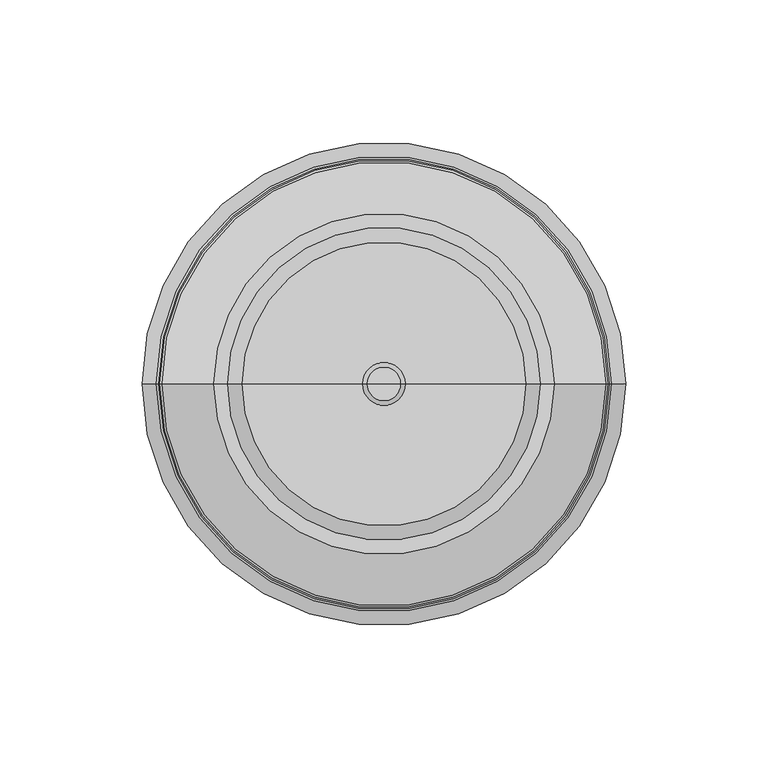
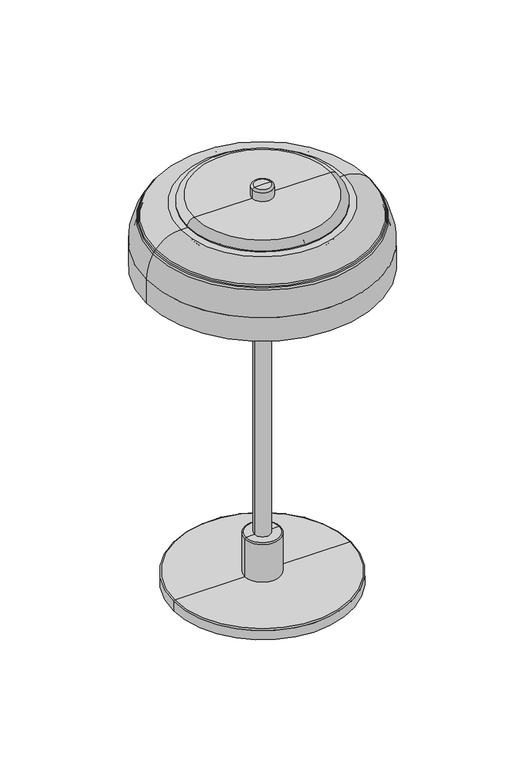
"""IFC4 building model written with IfcOpenShell, lengths in millimetres: light fixture geometry, Nuura - Blossi - Table Small : Nuura - Blossi - Table Small."""

from ifc_helpers import new_model, si_unit, point, frame, frame_2d, origin, origin_with_axes, place, context, project, spatial, polyline, circle_curve, ellipse_curve, trimmed, segment, composite_curve, outline, extrude, source, transform, mapped, element, save
from ifc_brep_helpers import plane_surface, cylinder_surface, revolved_surface, advanced_brep


def light_fixture_d68c31f9(model_context):
    return source(origin(), model_context, "Body", "SolidModel", [
        advanced_brep(
        [(-60.0, 0.0, 291.2), (60.0, 0.0, 291.2), (0.0, 0.0, 291.2), (-74.2433676, 0.0, 285.3165279), (74.2433676, 0.0, 285.3165279), (-74.9468549, 0.0, 284.5804612), (74.9468549, 0.0, 284.5804612), (-76.2305487, 0.0, 282.9610633), (76.2305487, 0.0, 282.9610633), (-76.7866873, 0.0, 282.108081), (76.7866873, 0.0, 282.108081), (-82.0, 0.0, 264.5667504), (82.0, 0.0, 264.5667504), (-82.0, 0.0, 246.5667504), (82.0, 0.0, 246.5667504), (-85.0, 0.0, 246.5667504), (85.0, 0.0, 246.5667504), (-85.0, 0.0, 264.5667504), (85.0, 0.0, 264.5667504), (-80.1645125, 0.0, 282.4944598), (80.1645125, 0.0, 282.4944598), (-79.4063661, 0.0, 283.7976404), (79.4063661, 0.0, 283.7976404), (-78.9160333, 0.0, 284.5141966), (78.9160333, 0.0, 284.5141966), (-78.1680574, 0.0, 285.4519227), (78.1680574, 0.0, 285.4519227), (-60.0, 0.0, 294.2), (60.0, 0.0, 294.2), (0.0, 0.0, 294.2)],
        [
            (0, 1, circle_curve(frame((0.0, 0.0, 291.2), z_axis=(0.0, 0.0, -1.0), x_axis=(1.0, 0.0, 0.0)), 60.0)),
            (1, 2),
            (2, 0),
            (1, 0, circle_curve(frame((0.0, 0.0, 291.2), z_axis=(0.0, 0.0, -1.0), x_axis=(1.0, 0.0, 0.0)), 60.0)),
            (3, 4, circle_curve(frame((0.0, 0.0, 285.3165279), z_axis=(0.0, 0.0, -1.0), x_axis=(1.0, 0.0, 0.0)), 74.2433676)),
            (4, 1, circle_curve(frame((60.0, 0.0, 271.0172948), z_axis=(0.0, -1.0, 0.0), x_axis=(1.0, 0.0, 0.0)), 20.1827052)),
            (0, 3, circle_curve(frame((-60.0, 0.0, 271.0172948), z_axis=(0.0, -1.0, 0.0), x_axis=(-1.0, 0.0, 0.0)), 20.1827052)),
            (4, 3, circle_curve(frame((0.0, 0.0, 285.3165279), z_axis=(0.0, 0.0, -1.0), x_axis=(1.0, 0.0, 0.0)), 74.2433676)),
            (5, 6, circle_curve(frame((0.0, 0.0, 284.5804612), z_axis=(0.0, 0.0, -1.0), x_axis=(1.0, 0.0, 0.0)), 74.9468549)),
            (6, 4),
            (3, 5),
            (6, 5, circle_curve(frame((0.0, 0.0, 284.5804612), z_axis=(0.0, 0.0, -1.0), x_axis=(1.0, 0.0, 0.0)), 74.9468549)),
            (7, 8, circle_curve(frame((0.0, 0.0, 282.9610633), z_axis=(0.0, 0.0, -1.0), x_axis=(1.0, 0.0, 0.0)), 76.2305487)),
            (8, 6, circle_curve(frame((66.8599569, 0.0, 276.8515019), z_axis=(0.0, -1.0, 0.0), x_axis=(1.0, 0.0, 0.0)), 11.1863636)),
            (5, 7, circle_curve(frame((-66.8599569, 0.0, 276.8515019), z_axis=(0.0, -1.0, 0.0), x_axis=(-1.0, 0.0, 0.0)), 11.1863636)),
            (8, 7, circle_curve(frame((0.0, 0.0, 282.9610633), z_axis=(0.0, 0.0, -1.0), x_axis=(1.0, 0.0, 0.0)), 76.2305487)),
            (9, 10, circle_curve(frame((0.0, 0.0, 282.108081), z_axis=(0.0, 0.0, -1.0), x_axis=(1.0, 0.0, 0.0)), 76.7866873)),
            (10, 8),
            (7, 9),
            (10, 9, circle_curve(frame((0.0, 0.0, 282.108081), z_axis=(0.0, 0.0, -1.0), x_axis=(1.0, 0.0, 0.0)), 76.7866873)),
            (11, 12, circle_curve(frame((0.0, 0.0, 264.5667504), z_axis=(0.0, 0.0, -1.0), x_axis=(1.0, 0.0, 0.0)), 82.0)),
            (12, 10, circle_curve(frame((49.8825225, 0.0, 264.5667504), z_axis=(0.0, -1.0, 0.0), x_axis=(1.0, 0.0, 0.0)), 32.1174775)),
            (9, 11, circle_curve(frame((-49.8825225, 0.0, 264.5667504), z_axis=(0.0, -1.0, 0.0), x_axis=(-1.0, 0.0, 0.0)), 32.1174775)),
            (12, 11, circle_curve(frame((0.0, 0.0, 264.5667504), z_axis=(0.0, 0.0, -1.0), x_axis=(1.0, 0.0, 0.0)), 82.0)),
            (13, 14, circle_curve(frame((0.0, 0.0, 246.5667504), z_axis=(0.0, 0.0, -1.0), x_axis=(1.0, 0.0, 0.0)), 82.0)),
            (14, 12),
            (11, 13),
            (14, 13, circle_curve(frame((0.0, 0.0, 246.5667504), z_axis=(0.0, 0.0, -1.0), x_axis=(1.0, 0.0, 0.0)), 82.0)),
            (15, 16, circle_curve(frame((0.0, 0.0, 246.5667504), z_axis=(0.0, 0.0, -1.0), x_axis=(1.0, 0.0, 0.0)), 85.0)),
            (16, 14),
            (13, 15),
            (16, 15, circle_curve(frame((0.0, 0.0, 246.5667504), z_axis=(0.0, 0.0, -1.0), x_axis=(1.0, 0.0, 0.0)), 85.0)),
            (17, 18, circle_curve(frame((0.0, 0.0, 264.5667504), z_axis=(0.0, 0.0, -1.0), x_axis=(1.0, 0.0, 0.0)), 85.0)),
            (18, 16),
            (15, 17),
            (18, 17, circle_curve(frame((0.0, 0.0, 264.5667504), z_axis=(0.0, 0.0, -1.0), x_axis=(1.0, 0.0, 0.0)), 85.0)),
            (19, 20, circle_curve(frame((0.0, 0.0, 282.4944598), z_axis=(0.0, 0.0, -1.0), x_axis=(1.0, 0.0, 0.0)), 80.1645125)),
            (20, 18, circle_curve(frame((49.3485064, 0.0, 264.5667504), z_axis=(0.0, 1.0, 0.0), x_axis=(1.0, 0.0, 0.0)), 35.6514936)),
            (17, 19, circle_curve(frame((-49.3485064, 0.0, 264.5667504), z_axis=(0.0, 1.0, 0.0), x_axis=(-1.0, 0.0, 0.0)), 35.6514936)),
            (20, 19, circle_curve(frame((0.0, 0.0, 282.4944598), z_axis=(0.0, 0.0, -1.0), x_axis=(1.0, 0.0, 0.0)), 80.1645125)),
            (21, 22, circle_curve(frame((0.0, 0.0, 283.7976404), z_axis=(0.0, 0.0, -1.0), x_axis=(1.0, 0.0, 0.0)), 79.4063661)),
            (22, 20),
            (19, 21),
            (22, 21, circle_curve(frame((0.0, 0.0, 283.7976404), z_axis=(0.0, 0.0, -1.0), x_axis=(1.0, 0.0, 0.0)), 79.4063661)),
            (23, 24, circle_curve(frame((0.0, 0.0, 284.5141966), z_axis=(0.0, 0.0, -1.0), x_axis=(1.0, 0.0, 0.0)), 78.9160333)),
            (24, 22, circle_curve(frame((74.2754735, 0.0, 280.8126608), z_axis=(0.0, 1.0, 0.0), x_axis=(1.0, 0.0, 0.0)), 5.9360056)),
            (21, 23, circle_curve(frame((-74.2754735, 0.0, 280.8126608), z_axis=(0.0, 1.0, 0.0), x_axis=(-1.0, 0.0, 0.0)), 5.9360056)),
            (24, 23, circle_curve(frame((0.0, 0.0, 284.5141966), z_axis=(0.0, 0.0, -1.0), x_axis=(1.0, 0.0, 0.0)), 78.9160333)),
            (25, 26, circle_curve(frame((0.0, 0.0, 285.4519227), z_axis=(0.0, 0.0, -1.0), x_axis=(1.0, 0.0, 0.0)), 78.1680574)),
            (26, 24),
            (23, 25),
            (26, 25, circle_curve(frame((0.0, 0.0, 285.4519227), z_axis=(0.0, 0.0, -1.0), x_axis=(1.0, 0.0, 0.0)), 78.1680574)),
            (27, 28, circle_curve(frame((0.0, 0.0, 294.2), z_axis=(0.0, 0.0, -1.0), x_axis=(1.0, 0.0, 0.0)), 60.0)),
            (28, 26, circle_curve(frame((60.0, 0.0, 270.9601981), z_axis=(0.0, 1.0, 0.0), x_axis=(1.0, 0.0, 0.0)), 23.2398019)),
            (25, 27, circle_curve(frame((-60.0, 0.0, 270.9601981), z_axis=(0.0, 1.0, 0.0), x_axis=(-1.0, 0.0, 0.0)), 23.2398019)),
            (28, 27, circle_curve(frame((0.0, 0.0, 294.2), z_axis=(0.0, 0.0, -1.0), x_axis=(1.0, 0.0, 0.0)), 60.0)),
            (29, 28),
            (27, 29),
        ],
        [
            plane_surface(frame((0.0, 0.0, 291.2), z_axis=(0.0, 0.0, -1.0), x_axis=(1.0, 0.0, 0.0))),
            revolved_surface(trimmed(ellipse_curve(frame((60.0, 0.0, 271.0172948), z_axis=(0.0, 1.0, 0.0), x_axis=(1.0, 0.0, 0.0)), 20.1827052, 20.1827052), [point((60.0, 0.0, 291.2))], [point((74.2433676, 0.0, 285.3165279))], True, "CARTESIAN"), (0.0, 0.0, 340.5834276), (0.0, 0.0, 1.0)),
            revolved_surface(polyline([(74.2433676, 0.0, 285.3165279), (74.9468549, 0.0, 284.5804612)]), (0.0, 0.0, 340.5834276), (0.0, 0.0, 1.0)),
            revolved_surface(trimmed(ellipse_curve(frame((66.8599569, 0.0, 276.8515019), z_axis=(0.0, 1.0, 0.0), x_axis=(1.0, 0.0, 0.0)), 11.1863636, 11.1863636), [point((74.9468549, 0.0, 284.5804612))], [point((76.2305487, 0.0, 282.9610633))], True, "CARTESIAN"), (0.0, 0.0, 340.5834276), (0.0, 0.0, 1.0)),
            revolved_surface(polyline([(76.2305487, 0.0, 282.9610633), (76.7866873, 0.0, 282.108081)]), (0.0, 0.0, 340.5834276), (0.0, 0.0, 1.0)),
            revolved_surface(trimmed(ellipse_curve(frame((49.8825225, 0.0, 264.5667504), z_axis=(0.0, 1.0, 0.0), x_axis=(1.0, 0.0, 0.0)), 32.1174775, 32.1174775), [point((76.7866873, 0.0, 282.108081))], [point((82.0, 0.0, 264.5667504))], True, "CARTESIAN"), (0.0, 0.0, 340.5834276), (0.0, 0.0, 1.0)),
            revolved_surface(polyline([(82.0, 0.0, 264.5667504), (82.0, 0.0, 246.5667504)]), (0.0, 0.0, 340.5834276), (0.0, 0.0, 1.0)),
            plane_surface(frame((0.0, 0.0, 246.5667504), z_axis=(0.0, 0.0, -1.0), x_axis=(1.0, 0.0, 0.0))),
            cylinder_surface(frame((0.0, 0.0, 340.5834276), z_axis=(0.0, 0.0, 1.0), x_axis=(1.0, 0.0, 0.0)), 85.0),
            revolved_surface(trimmed(ellipse_curve(frame((49.3485064, 0.0, 264.5667504), z_axis=(0.0, -1.0, 0.0), x_axis=(1.0, 0.0, 0.0)), 35.6514936, 35.6514936), [point((85.0, 0.0, 264.5667504))], [point((80.1645125, 0.0, 282.4944598))], True, "CARTESIAN"), (0.0, 0.0, 340.5834276), (0.0, 0.0, 1.0)),
            revolved_surface(polyline([(80.1645125, 0.0, 282.4944598), (79.4063661, 0.0, 283.7976404)]), (0.0, 0.0, 340.5834276), (0.0, 0.0, 1.0)),
            revolved_surface(trimmed(ellipse_curve(frame((74.2754735, 0.0, 280.8126608), z_axis=(0.0, -1.0, 0.0), x_axis=(1.0, 0.0, 0.0)), 5.9360056, 5.9360056), [point((79.4063661, 0.0, 283.7976404))], [point((78.9160333, 0.0, 284.5141966))], True, "CARTESIAN"), (0.0, 0.0, 340.5834276), (0.0, 0.0, 1.0)),
            revolved_surface(polyline([(78.9160333, 0.0, 284.5141966), (78.1680574, 0.0, 285.4519227)]), (0.0, 0.0, 340.5834276), (0.0, 0.0, 1.0)),
            revolved_surface(trimmed(ellipse_curve(frame((60.0, 0.0, 270.9601981), z_axis=(0.0, -1.0, 0.0), x_axis=(1.0, 0.0, 0.0)), 23.2398019, 23.2398019), [point((78.1680574, 0.0, 285.4519227))], [point((60.0, 0.0, 294.2))], True, "CARTESIAN"), (0.0, 0.0, 340.5834276), (0.0, 0.0, 1.0)),
            plane_surface(frame((0.0, 0.0, 294.2), z_axis=(0.0, 0.0, 1.0), x_axis=(1.0, 0.0, 0.0))),
        ],
        [
            (0, [[1, 2, 3]]),
            (0, [[4, -3, -2]]),
            (1, [[5, 6, -1, 7]]),
            (1, [[8, -7, -4, -6]]),
            (2, [[9, 10, -5, 11]]),
            (2, [[12, -11, -8, -10]]),
            (3, [[13, 14, -9, 15]]),
            (3, [[16, -15, -12, -14]]),
            (4, [[17, 18, -13, 19]]),
            (4, [[20, -19, -16, -18]]),
            (5, [[21, 22, -17, 23]]),
            (5, [[24, -23, -20, -22]]),
            (6, [[25, 26, -21, 27]]),
            (6, [[28, -27, -24, -26]]),
            (7, [[29, 30, -25, 31]]),
            (7, [[32, -31, -28, -30]]),
            (8, [[33, 34, -29, 35]]),
            (8, [[36, -35, -32, -34]]),
            (9, [[37, 38, -33, 39]]),
            (9, [[40, -39, -36, -38]]),
            (10, [[41, 42, -37, 43]]),
            (10, [[44, -43, -40, -42]]),
            (11, [[45, 46, -41, 47]]),
            (11, [[48, -47, -44, -46]]),
            (12, [[49, 50, -45, 51]]),
            (12, [[52, -51, -48, -50]]),
            (13, [[53, 54, -49, 55]]),
            (13, [[56, -55, -52, -54]]),
            (14, [[57, -53, 58]]),
            (14, [[-58, -56, -57]]),
        ],
    ),
        advanced_brep(
        [(-5.85, 0.0, 284.3165279), (5.85, 0.0, 284.3165279), (5.85, 0.0, 261.5), (-5.85, 0.0, 261.5), (0.0, 0.0, 284.3165279), (0.0, 0.0, 261.5)],
        [
            (0, 1, circle_curve(frame((0.0, 0.0, 284.3165279), z_axis=(0.0, 0.0, -1.0), x_axis=(1.0, 0.0, 0.0)), 5.85)),
            (1, 2),
            (2, 3, circle_curve(frame((0.0, 0.0, 261.5), z_axis=(0.0, 0.0, 1.0), x_axis=(1.0, 0.0, 0.0)), 5.85)),
            (3, 0),
            (1, 0, circle_curve(frame((0.0, 0.0, 284.3165279), z_axis=(0.0, 0.0, -1.0), x_axis=(1.0, 0.0, 0.0)), 5.85)),
            (3, 2, circle_curve(frame((0.0, 0.0, 261.5), z_axis=(0.0, 0.0, 1.0), x_axis=(1.0, 0.0, 0.0)), 5.85)),
            (4, 1),
            (0, 4),
            (2, 5),
            (5, 3),
        ],
        [
            cylinder_surface(frame((0.0, 0.0, -468.1232635), z_axis=(0.0, 0.0, 1.0), x_axis=(1.0, 0.0, 0.0)), 5.85),
            plane_surface(frame((0.0, 0.0, 284.3165279), z_axis=(0.0, 0.0, 1.0), x_axis=(1.0, 0.0, 0.0))),
            plane_surface(frame((0.0, 0.0, 261.5), z_axis=(0.0, 0.0, -1.0), x_axis=(1.0, 0.0, 0.0))),
        ],
        [
            (0, [[1, 2, 3, 4]]),
            (0, [[5, -4, 6, -2]]),
            (1, [[7, -1, 8]]),
            (1, [[-8, -5, -7]]),
            (2, [[-3, 9, 10]]),
            (2, [[-6, -10, -9]]),
        ],
    ),
        extrude(outline(composite_curve([segment(trimmed(circle_curve(frame_2d((44.9894645, 0.0)), 10.0), [point((44.9894645, 10.0))], [point((44.9894645, -10.0))], False, "CARTESIAN"), True, "CONTINUOUS"), segment(trimmed(circle_curve(frame_2d((44.9894645, 0.0)), 10.0), [point((44.9894645, -10.0))], [point((44.9894645, 10.0))], False, "CARTESIAN"), True, "CONTINUOUS")], self_intersect=False)), origin_with_axes(), (0.0, 0.0, 1.0), 2.0),
        extrude(outline(composite_curve([segment(trimmed(circle_curve(frame_2d((-22.4947323, -38.9620192)), 10.0), [point((-13.8344782, -43.9620192))], [point((-31.1549863, -33.9620192))], False, "CARTESIAN"), True, "CONTINUOUS"), segment(trimmed(circle_curve(frame_2d((-22.4947323, -38.9620192)), 10.0), [point((-31.1549863, -33.9620192))], [point((-13.8344782, -43.9620192))], False, "CARTESIAN"), True, "CONTINUOUS")], self_intersect=False)), origin_with_axes(), (0.0, 0.0, 1.0), 2.0),
        extrude(outline(composite_curve([segment(trimmed(circle_curve(frame_2d((-22.4947323, 38.9620192)), 10.0), [point((-31.1549863, 33.9620192))], [point((-13.8344782, 43.9620192))], False, "CARTESIAN"), True, "CONTINUOUS"), segment(trimmed(circle_curve(frame_2d((-22.4947323, 38.9620192)), 10.0), [point((-13.8344782, 43.9620192))], [point((-31.1549863, 33.9620192))], False, "CARTESIAN"), True, "CONTINUOUS")], self_intersect=False)), origin_with_axes(), (0.0, 0.0, 1.0), 2.0),
        advanced_brep(
        [(-65.0, 0.0, 9.0), (65.0, 0.0, 9.0), (65.0, 0.0, 2.0), (-65.0, 0.0, 2.0), (-13.0, 0.0, 10.0), (13.0, 0.0, 10.0), (64.0, 0.0, 10.0), (-64.0, 0.0, 10.0), (0.0, 0.0, 2.0), (-13.0, 0.0, 39.0), (13.0, 0.0, 39.0), (-5.85, 0.0, 40.0), (5.85, 0.0, 40.0), (12.0, 0.0, 40.0), (-12.0, 0.0, 40.0), (-5.85, 0.0, 255.5434833), (5.85, 0.0, 255.5434833), (-24.651321, 0.0, 255.5434833), (24.651321, 0.0, 255.5434833), (-27.651321, 0.0, 258.5434833), (27.651321, 0.0, 258.5434833), (-24.651321, 0.0, 261.5434833), (24.651321, 0.0, 261.5434833), (0.0, 0.0, 261.5434833)],
        [
            (0, 1, circle_curve(frame((0.0, 0.0, 9.0), z_axis=(0.0, 0.0, -1.0), x_axis=(1.0, 0.0, 0.0)), 65.0)),
            (1, 2),
            (2, 3, circle_curve(frame((0.0, 0.0, 2.0), z_axis=(0.0, 0.0, 1.0), x_axis=(1.0, 0.0, 0.0)), 65.0)),
            (3, 0),
            (1, 0, circle_curve(frame((0.0, 0.0, 9.0), z_axis=(0.0, 0.0, -1.0), x_axis=(1.0, 0.0, 0.0)), 65.0)),
            (3, 2, circle_curve(frame((0.0, 0.0, 2.0), z_axis=(0.0, 0.0, 1.0), x_axis=(1.0, 0.0, 0.0)), 65.0)),
            (4, 5, circle_curve(frame((0.0, 0.0, 10.0), z_axis=(0.0, 0.0, -1.0), x_axis=(1.0, 0.0, 0.0)), 13.0)),
            (5, 6),
            (6, 7, circle_curve(frame((0.0, 0.0, 10.0), z_axis=(0.0, 0.0, 1.0), x_axis=(1.0, 0.0, 0.0)), 64.0)),
            (7, 4),
            (5, 4, circle_curve(frame((0.0, 0.0, 10.0), z_axis=(0.0, 0.0, -1.0), x_axis=(1.0, 0.0, 0.0)), 13.0)),
            (7, 6, circle_curve(frame((0.0, 0.0, 10.0), z_axis=(0.0, 0.0, 1.0), x_axis=(1.0, 0.0, 0.0)), 64.0)),
            (2, 8),
            (8, 3),
            (9, 10, circle_curve(frame((0.0, 0.0, 39.0), z_axis=(0.0, 0.0, -1.0), x_axis=(1.0, 0.0, 0.0)), 13.0)),
            (10, 5),
            (4, 9),
            (10, 9, circle_curve(frame((0.0, 0.0, 39.0), z_axis=(0.0, 0.0, -1.0), x_axis=(1.0, 0.0, 0.0)), 13.0)),
            (11, 12, circle_curve(frame((0.0, 0.0, 40.0), z_axis=(0.0, 0.0, -1.0), x_axis=(1.0, 0.0, 0.0)), 5.85)),
            (12, 13),
            (13, 14, circle_curve(frame((0.0, 0.0, 40.0), z_axis=(0.0, 0.0, 1.0), x_axis=(1.0, 0.0, 0.0)), 12.0)),
            (14, 11),
            (12, 11, circle_curve(frame((0.0, 0.0, 40.0), z_axis=(0.0, 0.0, -1.0), x_axis=(1.0, 0.0, 0.0)), 5.85)),
            (14, 13, circle_curve(frame((0.0, 0.0, 40.0), z_axis=(0.0, 0.0, 1.0), x_axis=(1.0, 0.0, 0.0)), 12.0)),
            (15, 16, circle_curve(frame((0.0, 0.0, 255.5434833), z_axis=(0.0, 0.0, -1.0), x_axis=(1.0, 0.0, 0.0)), 5.85)),
            (16, 12),
            (11, 15),
            (16, 15, circle_curve(frame((0.0, 0.0, 255.5434833), z_axis=(0.0, 0.0, -1.0), x_axis=(1.0, 0.0, 0.0)), 5.85)),
            (6, 1, circle_curve(frame((64.0, 0.0, 9.0), z_axis=(0.0, 1.0, 0.0), x_axis=(1.0, 0.0, 0.0)), 1.0)),
            (0, 7, circle_curve(frame((-64.0, 0.0, 9.0), z_axis=(0.0, 1.0, 0.0), x_axis=(-1.0, 0.0, 0.0)), 1.0)),
            (13, 10, circle_curve(frame((12.0, 0.0, 39.0), z_axis=(0.0, 1.0, 0.0), x_axis=(1.0, 0.0, 0.0)), 1.0)),
            (9, 14, circle_curve(frame((-12.0, 0.0, 39.0), z_axis=(0.0, 1.0, 0.0), x_axis=(-1.0, 0.0, 0.0)), 1.0)),
            (17, 18, circle_curve(frame((0.0, 0.0, 255.5434833), z_axis=(0.0, 0.0, -1.0), x_axis=(1.0, 0.0, 0.0)), 24.651321)),
            (18, 16),
            (15, 17),
            (18, 17, circle_curve(frame((0.0, 0.0, 255.5434833), z_axis=(0.0, 0.0, -1.0), x_axis=(1.0, 0.0, 0.0)), 24.651321)),
            (19, 20, circle_curve(frame((0.0, 0.0, 258.5434833), z_axis=(0.0, 0.0, -1.0), x_axis=(1.0, 0.0, 0.0)), 27.651321)),
            (20, 18, circle_curve(frame((24.651321, 0.0, 258.5434833), z_axis=(0.0, 1.0, 0.0), x_axis=(1.0, 0.0, 0.0)), 3.0)),
            (17, 19, circle_curve(frame((-24.651321, 0.0, 258.5434833), z_axis=(0.0, 1.0, 0.0), x_axis=(-1.0, 0.0, 0.0)), 3.0)),
            (20, 19, circle_curve(frame((0.0, 0.0, 258.5434833), z_axis=(0.0, 0.0, -1.0), x_axis=(1.0, 0.0, 0.0)), 27.651321)),
            (21, 22, circle_curve(frame((0.0, 0.0, 261.5434833), z_axis=(0.0, 0.0, -1.0), x_axis=(1.0, 0.0, 0.0)), 24.651321)),
            (22, 20, circle_curve(frame((24.651321, 0.0, 258.5434833), z_axis=(0.0, 1.0, 0.0), x_axis=(1.0, 0.0, 0.0)), 3.0)),
            (19, 21, circle_curve(frame((-24.651321, 0.0, 258.5434833), z_axis=(0.0, 1.0, 0.0), x_axis=(-1.0, 0.0, 0.0)), 3.0)),
            (22, 21, circle_curve(frame((0.0, 0.0, 261.5434833), z_axis=(0.0, 0.0, -1.0), x_axis=(1.0, 0.0, 0.0)), 24.651321)),
            (23, 22),
            (21, 23),
        ],
        [
            cylinder_surface(frame((0.0, 0.0, -50.0), z_axis=(0.0, 0.0, 1.0), x_axis=(1.0, 0.0, 0.0)), 65.0),
            plane_surface(frame((0.0, 0.0, 10.0), z_axis=(0.0, 0.0, 1.0), x_axis=(1.0, 0.0, 0.0))),
            plane_surface(frame((0.0, 0.0, 2.0), z_axis=(0.0, 0.0, -1.0), x_axis=(1.0, 0.0, 0.0))),
            cylinder_surface(frame((0.0, 0.0, -50.0), z_axis=(0.0, 0.0, 1.0), x_axis=(1.0, 0.0, 0.0)), 13.0),
            plane_surface(frame((0.0, 0.0, 40.0), z_axis=(0.0, 0.0, 1.0), x_axis=(1.0, 0.0, 0.0))),
            cylinder_surface(frame((0.0, 0.0, -50.0), z_axis=(0.0, 0.0, 1.0), x_axis=(1.0, 0.0, 0.0)), 5.85),
            revolved_surface(trimmed(ellipse_curve(frame((64.0, 0.0, 9.0), z_axis=(0.0, -1.0, 0.0), x_axis=(1.0, 0.0, 0.0)), 1.0, 1.0), [point((65.0, 0.0, 9.0))], [point((64.0, 0.0, 10.0))], True, "CARTESIAN"), (0.0, 0.0, -50.0), (0.0, 0.0, 1.0)),
            revolved_surface(trimmed(ellipse_curve(frame((12.0, 0.0, 39.0), z_axis=(0.0, -1.0, 0.0), x_axis=(1.0, 0.0, 0.0)), 1.0, 1.0), [point((13.0, 0.0, 39.0))], [point((12.0, 0.0, 40.0))], True, "CARTESIAN"), (0.0, 0.0, -50.0), (0.0, 0.0, 1.0)),
            plane_surface(frame((0.0, 0.0, 255.5434833), z_axis=(0.0, 0.0, -1.0), x_axis=(1.0, 0.0, 0.0))),
            revolved_surface(trimmed(ellipse_curve(frame((24.651321, 0.0, 258.5434833), z_axis=(0.0, -1.0, 0.0), x_axis=(1.0, 0.0, 0.0)), 3.0, 3.0), [point((24.651321, 0.0, 255.5434833))], [point((27.651321, 0.0, 258.5434833))], True, "CARTESIAN"), (0.0, 0.0, -50.0), (0.0, 0.0, 1.0)),
            revolved_surface(trimmed(ellipse_curve(frame((24.651321, 0.0, 258.5434833), z_axis=(0.0, -1.0, 0.0), x_axis=(1.0, 0.0, 0.0)), 3.0, 3.0), [point((27.651321, 0.0, 258.5434833))], [point((24.651321, 0.0, 261.5434833))], True, "CARTESIAN"), (0.0, 0.0, -50.0), (0.0, 0.0, 1.0)),
            plane_surface(frame((0.0, 0.0, 261.5434833), z_axis=(0.0, 0.0, 1.0), x_axis=(1.0, 0.0, 0.0))),
        ],
        [
            (0, [[1, 2, 3, 4]]),
            (0, [[5, -4, 6, -2]]),
            (1, [[7, 8, 9, 10]]),
            (1, [[11, -10, 12, -8]]),
            (2, [[-3, 13, 14]]),
            (2, [[-6, -14, -13]]),
            (3, [[15, 16, -7, 17]]),
            (3, [[18, -17, -11, -16]]),
            (4, [[19, 20, 21, 22]]),
            (4, [[23, -22, 24, -20]]),
            (5, [[25, 26, -19, 27]]),
            (5, [[28, -27, -23, -26]]),
            (6, [[-9, 29, -1, 30]]),
            (6, [[-12, -30, -5, -29]]),
            (7, [[-21, 31, -15, 32]]),
            (7, [[-24, -32, -18, -31]]),
            (8, [[33, 34, -25, 35]]),
            (8, [[36, -35, -28, -34]]),
            (9, [[37, 38, -33, 39]]),
            (9, [[40, -39, -36, -38]]),
            (10, [[41, 42, -37, 43]]),
            (10, [[44, -43, -40, -42]]),
            (11, [[45, -41, 46]]),
            (11, [[-46, -44, -45]]),
        ],
    ),
        advanced_brep(
        [(-55.0, 0.0, 289.2), (55.0, 0.0, 289.2), (50.0, 0.0, 284.2), (-50.0, 0.0, 284.2), (-55.0, 0.0, 290.2), (55.0, 0.0, 290.2), (0.0, 0.0, 290.2), (0.0, 0.0, 284.2)],
        [
            (0, 1, circle_curve(frame((0.0, 0.0, 289.2), z_axis=(0.0, 0.0, -1.0), x_axis=(1.0, 0.0, 0.0)), 55.0)),
            (1, 2, circle_curve(frame((50.0, 0.0, 289.2), z_axis=(0.0, 1.0, 0.0), x_axis=(1.0, 0.0, 0.0)), 5.0)),
            (2, 3, circle_curve(frame((0.0, 0.0, 284.2), z_axis=(0.0, 0.0, 1.0), x_axis=(1.0, 0.0, 0.0)), 50.0)),
            (3, 0, circle_curve(frame((-50.0, 0.0, 289.2), z_axis=(0.0, 1.0, 0.0), x_axis=(-1.0, 0.0, 0.0)), 5.0)),
            (1, 0, circle_curve(frame((0.0, 0.0, 289.2), z_axis=(0.0, 0.0, -1.0), x_axis=(1.0, 0.0, 0.0)), 55.0)),
            (3, 2, circle_curve(frame((0.0, 0.0, 284.2), z_axis=(0.0, 0.0, 1.0), x_axis=(1.0, 0.0, 0.0)), 50.0)),
            (4, 5, circle_curve(frame((0.0, 0.0, 290.2), z_axis=(0.0, 0.0, -1.0), x_axis=(1.0, 0.0, 0.0)), 55.0)),
            (5, 1),
            (0, 4),
            (5, 4, circle_curve(frame((0.0, 0.0, 290.2), z_axis=(0.0, 0.0, -1.0), x_axis=(1.0, 0.0, 0.0)), 55.0)),
            (6, 5),
            (4, 6),
            (2, 7),
            (7, 3),
        ],
        [
            revolved_surface(trimmed(ellipse_curve(frame((50.0, 0.0, 289.2), z_axis=(0.0, -1.0, 0.0), x_axis=(1.0, 0.0, 0.0)), 5.0, 5.0), [point((50.0, 0.0, 284.2))], [point((55.0, 0.0, 289.2))], True, "CARTESIAN"), (0.0, 0.0, -50.0), (0.0, 0.0, 1.0)),
            cylinder_surface(frame((0.0, 0.0, -50.0), z_axis=(0.0, 0.0, 1.0), x_axis=(1.0, 0.0, 0.0)), 55.0),
            plane_surface(frame((0.0, 0.0, 290.2), z_axis=(0.0, 0.0, 1.0), x_axis=(1.0, 0.0, 0.0))),
            plane_surface(frame((0.0, 0.0, 284.2), z_axis=(0.0, 0.0, -1.0), x_axis=(1.0, 0.0, 0.0))),
        ],
        [
            (0, [[1, 2, 3, 4]]),
            (0, [[5, -4, 6, -2]]),
            (1, [[7, 8, -1, 9]]),
            (1, [[10, -9, -5, -8]]),
            (2, [[11, -7, 12]]),
            (2, [[-12, -10, -11]]),
            (3, [[-3, 13, 14]]),
            (3, [[-6, -14, -13]]),
        ],
    ),
        advanced_brep(
        [(-7.5, 0.0, 306.6675236), (7.5, 0.0, 306.6675236), (7.5, 0.0, 300.2), (-7.5, 0.0, 300.2), (-5.9675236, 0.0, 308.2), (5.9675236, 0.0, 308.2), (0.0, 0.0, 308.2), (-55.0, 0.0, 294.2), (55.0, 0.0, 294.2), (0.0, 0.0, 294.2), (-55.0, 0.0, 295.2), (55.0, 0.0, 295.2), (-50.0, 0.0, 300.2), (50.0, 0.0, 300.2)],
        [
            (0, 1, circle_curve(frame((0.0, 0.0, 306.6675236), z_axis=(0.0, 0.0, -1.0), x_axis=(1.0, 0.0, 0.0)), 7.5)),
            (1, 2),
            (2, 3, circle_curve(frame((0.0, 0.0, 300.2), z_axis=(0.0, 0.0, 1.0), x_axis=(1.0, 0.0, 0.0)), 7.5)),
            (3, 0),
            (1, 0, circle_curve(frame((0.0, 0.0, 306.6675236), z_axis=(0.0, 0.0, -1.0), x_axis=(1.0, 0.0, 0.0)), 7.5)),
            (3, 2, circle_curve(frame((0.0, 0.0, 300.2), z_axis=(0.0, 0.0, 1.0), x_axis=(1.0, 0.0, 0.0)), 7.5)),
            (4, 5, circle_curve(frame((0.0, 0.0, 308.2), z_axis=(0.0, 0.0, -1.0), x_axis=(1.0, 0.0, 0.0)), 5.9675236)),
            (5, 1, circle_curve(frame((5.9675236, 0.0, 306.6675236), z_axis=(0.0, 1.0, 0.0), x_axis=(1.0, 0.0, 0.0)), 1.5324764)),
            (0, 4, circle_curve(frame((-5.9675236, 0.0, 306.6675236), z_axis=(0.0, 1.0, 0.0), x_axis=(-1.0, 0.0, 0.0)), 1.5324764)),
            (5, 4, circle_curve(frame((0.0, 0.0, 308.2), z_axis=(0.0, 0.0, -1.0), x_axis=(1.0, 0.0, 0.0)), 5.9675236)),
            (6, 5),
            (4, 6),
            (7, 8, circle_curve(frame((0.0, 0.0, 294.2), z_axis=(0.0, 0.0, -1.0), x_axis=(1.0, 0.0, 0.0)), 55.0)),
            (8, 9),
            (9, 7),
            (8, 7, circle_curve(frame((0.0, 0.0, 294.2), z_axis=(0.0, 0.0, -1.0), x_axis=(1.0, 0.0, 0.0)), 55.0)),
            (10, 11, circle_curve(frame((0.0, 0.0, 295.2), z_axis=(0.0, 0.0, -1.0), x_axis=(1.0, 0.0, 0.0)), 55.0)),
            (11, 8),
            (7, 10),
            (11, 10, circle_curve(frame((0.0, 0.0, 295.2), z_axis=(0.0, 0.0, -1.0), x_axis=(1.0, 0.0, 0.0)), 55.0)),
            (12, 13, circle_curve(frame((0.0, 0.0, 300.2), z_axis=(0.0, 0.0, -1.0), x_axis=(1.0, 0.0, 0.0)), 50.0)),
            (13, 11, circle_curve(frame((50.0, 0.0, 295.2), z_axis=(0.0, 1.0, 0.0), x_axis=(1.0, 0.0, 0.0)), 5.0)),
            (10, 12, circle_curve(frame((-50.0, 0.0, 295.2), z_axis=(0.0, 1.0, 0.0), x_axis=(-1.0, 0.0, 0.0)), 5.0)),
            (13, 12, circle_curve(frame((0.0, 0.0, 300.2), z_axis=(0.0, 0.0, -1.0), x_axis=(1.0, 0.0, 0.0)), 50.0)),
            (2, 13),
            (12, 3),
        ],
        [
            cylinder_surface(frame((0.0, 0.0, -50.0), z_axis=(0.0, 0.0, 1.0), x_axis=(1.0, 0.0, 0.0)), 7.5),
            revolved_surface(trimmed(ellipse_curve(frame((5.9675236, 0.0, 306.6675236), z_axis=(0.0, -1.0, 0.0), x_axis=(1.0, 0.0, 0.0)), 1.5324764, 1.5324764), [point((7.5, 0.0, 306.6675236))], [point((5.9675236, 0.0, 308.2))], True, "CARTESIAN"), (0.0, 0.0, -50.0), (0.0, 0.0, 1.0)),
            plane_surface(frame((0.0, 0.0, 308.2), z_axis=(0.0, 0.0, 1.0), x_axis=(1.0, 0.0, 0.0))),
            plane_surface(frame((0.0, 0.0, 294.2), z_axis=(0.0, 0.0, -1.0), x_axis=(1.0, 0.0, 0.0))),
            cylinder_surface(frame((0.0, 0.0, -50.0), z_axis=(0.0, 0.0, 1.0), x_axis=(1.0, 0.0, 0.0)), 55.0),
            revolved_surface(trimmed(ellipse_curve(frame((50.0, 0.0, 295.2), z_axis=(0.0, -1.0, 0.0), x_axis=(1.0, 0.0, 0.0)), 5.0, 5.0), [point((55.0, 0.0, 295.2))], [point((50.0, 0.0, 300.2))], True, "CARTESIAN"), (0.0, 0.0, -50.0), (0.0, 0.0, 1.0)),
            plane_surface(frame((0.0, 0.0, 300.2), z_axis=(0.0, 0.0, 1.0), x_axis=(1.0, 0.0, 0.0))),
        ],
        [
            (0, [[1, 2, 3, 4]]),
            (0, [[5, -4, 6, -2]]),
            (1, [[7, 8, -1, 9]]),
            (1, [[10, -9, -5, -8]]),
            (2, [[11, -7, 12]]),
            (2, [[-12, -10, -11]]),
            (3, [[13, 14, 15]]),
            (3, [[16, -15, -14]]),
            (4, [[17, 18, -13, 19]]),
            (4, [[20, -19, -16, -18]]),
            (5, [[21, 22, -17, 23]]),
            (5, [[24, -23, -20, -22]]),
            (6, [[-3, 25, -21, 26]]),
            (6, [[-6, -26, -24, -25]]),
        ],
    ),
    ])


if __name__ == "__main__":
    model = new_model("IFC4")
    model_context = context("Model", 3, world=origin())
    ifc_project = project(units=[si_unit("LENGTHUNIT", "METRE", prefix="MILLI")], contexts=[model_context])
    site = spatial("IfcSite", under=ifc_project)
    building = spatial("IfcBuilding", under=site)
    placement = place(None, origin())
    light_fixture_shape = light_fixture_d68c31f9(model_context)
    element("IfcLightFixture", 1, ObjectType="Nuura - Blossi - Table Small : Nuura - Blossi - Table Small", at=placement, inside=building, context=model_context, shape_type="MappedRepresentation", body=[
        mapped(light_fixture_shape, transform((0.0, 0.0, 0.0), x_axis=(1.0, 0.0, 0.0), y_axis=(0.0, 1.0, 0.0), z_axis=(0.0, 0.0, 1.0))),
    ])
    save(model, "model.ifc")
